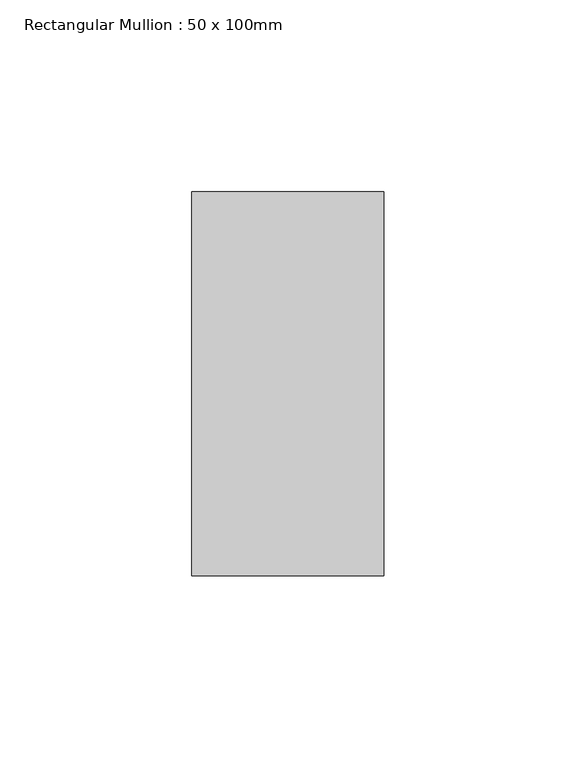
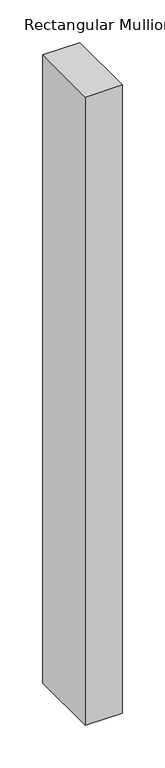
"""IFC4 building model written with IfcOpenShell, lengths in millimetres: member geometry, Rectangular Mullion : 50 x 100mm."""

from ifc_helpers import new_model, si_unit, frame, origin, place, context, project, spatial, polyline, outline, extrude, source, transform, mapped, element, save


def rectangular_mullion_50_x_100mm_afb0b622(model_context):
    return source(origin(), model_context, "Body", "SweptSolid", [
        extrude(outline(polyline([(0.0, 50.0), (0.0, -50.0), (-50.0, -50.0), (-50.0, 50.0), (0.0, 50.0)])), frame((0.0, 0.0, -900.0), z_axis=(0.0, 0.0, 1.0), x_axis=(1.0, 0.0, 0.0)), (0.0, 0.0, 1.0), 900.0),
    ])


if __name__ == "__main__":
    model = new_model("IFC4")
    model_context = context("Model", 3, world=origin())
    ifc_project = project(units=[si_unit("LENGTHUNIT", "METRE", prefix="MILLI")], contexts=[model_context])
    site = spatial("IfcSite", under=ifc_project)
    building = spatial("IfcBuilding", under=site)
    placement = place(None, origin())
    rectangular_mullion_50_x_100mm_shape = rectangular_mullion_50_x_100mm_afb0b622(model_context)
    element("IfcMember", 1, ObjectType="Rectangular Mullion : 50 x 100mm", at=placement, inside=building, context=model_context, shape_type="MappedRepresentation", body=[
        mapped(rectangular_mullion_50_x_100mm_shape, transform((0.0, 0.0, 0.0), x_axis=(1.0, 0.0, 0.0), y_axis=(0.0, 1.0, 0.0), z_axis=(0.0, 0.0, 1.0))),
    ])
    save(model, "model.ifc")
